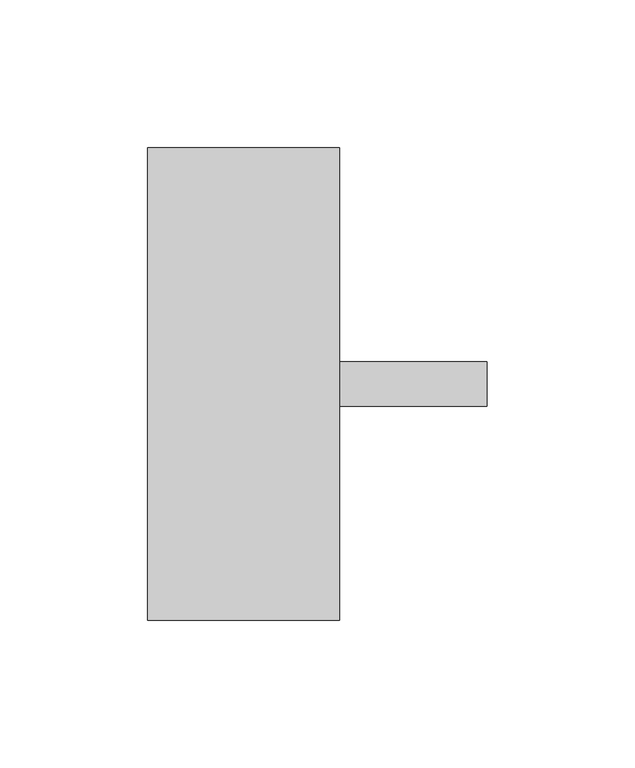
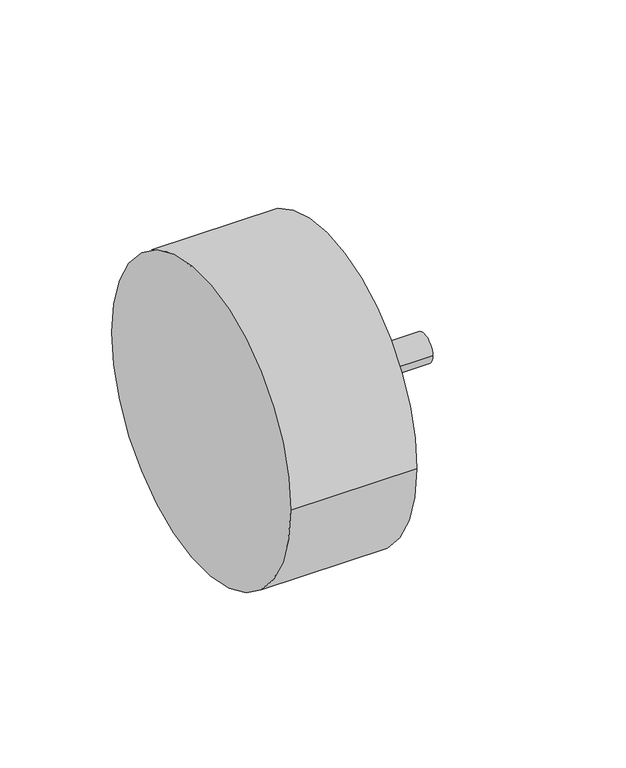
"""IFC4 building model written with IfcOpenShell, lengths in millimetres: pipe fitting geometry, NLRS_52_PIF_UN_PE eindkap verlengd_geb : DN50-150 / ø50-160."""

from ifc_helpers import new_model, si_unit, point, frame, origin, origin_2d, place, context, project, spatial, circle_curve, trimmed, segment, composite_curve, outline, extrude, source, transform, mapped, element, save


def pipe_fitting_4753cb8a(model_context):
    return source(origin(), model_context, "Body", "SweptSolid", [
        extrude(outline(composite_curve([segment(trimmed(circle_curve(origin_2d(), 7.5), [point((-7.5, 0.0))], [point((7.5, 0.0))], False, "CARTESIAN"), True, "CONTINUOUS"), segment(trimmed(circle_curve(origin_2d(), 7.5), [point((7.5, 0.0))], [point((-7.5, 0.0))], False, "CARTESIAN"), True, "CONTINUOUS")], self_intersect=False)), frame((58.0, 0.0, 0.0), z_axis=(1.0, 0.0, 0.0), x_axis=(0.0, 1.0, 0.0)), (0.0, 0.0, 1.0), 50.0),
        extrude(outline(composite_curve([segment(trimmed(circle_curve(origin_2d(), 80.0), [point((-80.0, 0.0))], [point((80.0, 0.0))], False, "CARTESIAN"), True, "CONTINUOUS"), segment(trimmed(circle_curve(origin_2d(), 80.0), [point((80.0, 0.0))], [point((-80.0, 0.0))], False, "CARTESIAN"), True, "CONTINUOUS")], self_intersect=False)), frame((-7.0, 0.0, 0.0), z_axis=(1.0, 0.0, 0.0), x_axis=(0.0, 1.0, 0.0)), (0.0, 0.0, 1.0), 65.0),
    ])


if __name__ == "__main__":
    model = new_model("IFC4")
    model_context = context("Model", 3, world=origin())
    ifc_project = project(units=[si_unit("LENGTHUNIT", "METRE", prefix="MILLI")], contexts=[model_context])
    site = spatial("IfcSite", under=ifc_project)
    building = spatial("IfcBuilding", under=site)
    placement = place(None, origin())
    pipe_fitting_shape = pipe_fitting_4753cb8a(model_context)
    element("IfcPipeFitting", 1, ObjectType="NLRS_52_PIF_UN_PE eindkap verlengd_geb : DN50-150 / ø50-160", at=placement, inside=building, context=model_context, shape_type="MappedRepresentation", body=[
        mapped(pipe_fitting_shape, transform((0.0, 0.0, 0.0), x_axis=(1.0, 0.0, 0.0), y_axis=(0.0, 1.0, 0.0), z_axis=(0.0, 0.0, 1.0))),
    ])
    save(model, "model.ifc")
